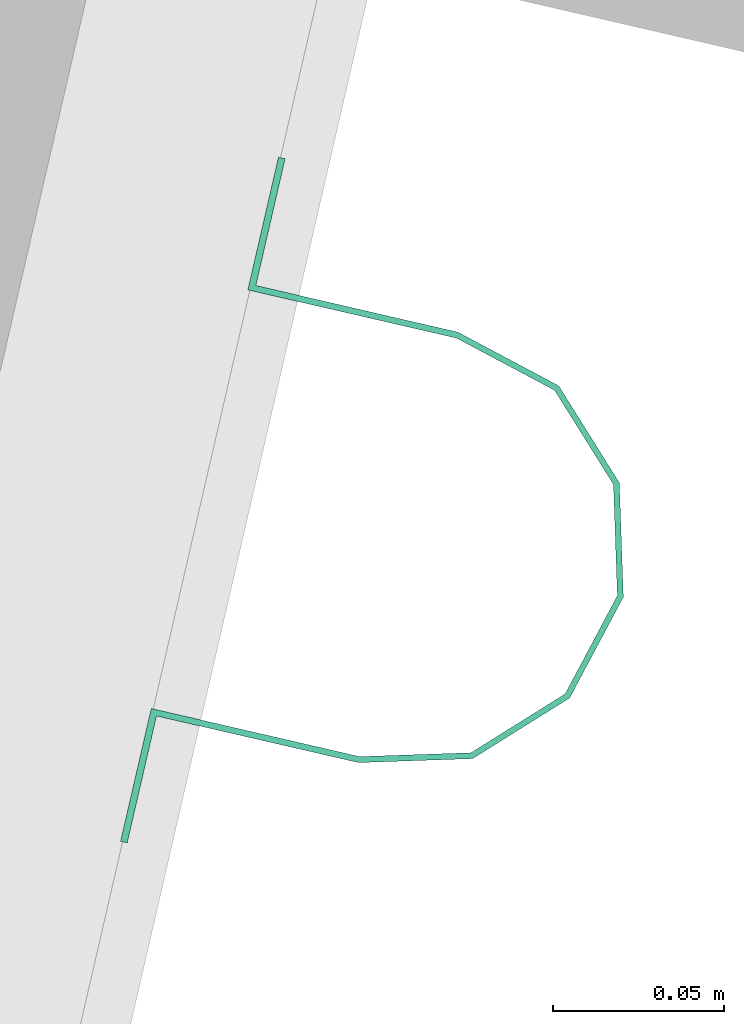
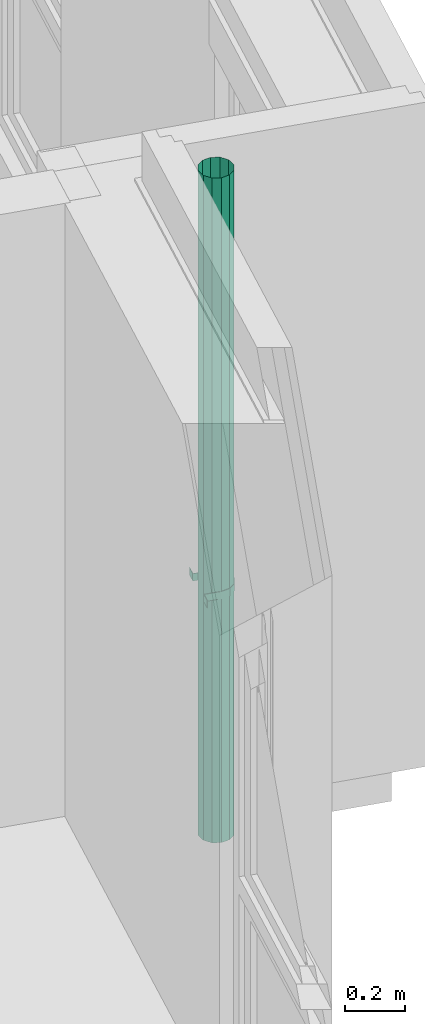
# One storey, part 54 of 62: 1 flow terminal.
"""IFC2X3 building model written with IfcOpenShell, lengths in metres."""

from ifc_helpers import new_model, entity, si_unit, converted_unit, derived_unit, money_unit, direction, frame, origin_with_axes, place, context, subcontext, project, spatial, open_shell, faceted_brep, surface_model, type_object, element, save


model = new_model("IFC2X3")

# Units and contexts
model_context = context("Model", 3, precision=1e-05, world=origin_with_axes(), true_north=direction((0.0, 1.0)))
body_context = subcontext(model_context, "Body", "Model", "MODEL_VIEW")
ifc_project = project(units=[si_unit("LENGTHUNIT", "METRE"), si_unit("AREAUNIT", "SQUARE_METRE"), si_unit("VOLUMEUNIT", "CUBIC_METRE"), converted_unit("PLANEANGLEUNIT", "DEGREE", entity("IfcPlaneAngleMeasure", 0.0174532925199), si_unit("PLANEANGLEUNIT", "RADIAN"), dimensions=[0, 0, 0, 0, 0, 0, 0]), si_unit("SOLIDANGLEUNIT", "STERADIAN"), money_unit("EUR"), converted_unit("TIMEUNIT", "Year", entity("IfcTimeMeasure", 31556926.0), si_unit("TIMEUNIT", "SECOND"), dimensions=[0, 0, 1, 0, 0, 0, 0]), si_unit("MASSUNIT", "GRAM", prefix="KILO"), si_unit("THERMODYNAMICTEMPERATUREUNIT", "DEGREE_CELSIUS"), si_unit("LUMINOUSINTENSITYUNIT", "LUMEN"), si_unit("ENERGYUNIT", "JOULE", prefix="MEGA"), derived_unit("THERMALCONDUCTANCEUNIT", [(si_unit("POWERUNIT", "WATT"), 1), (si_unit("LENGTHUNIT", "METRE"), -1), (si_unit("THERMODYNAMICTEMPERATUREUNIT", "KELVIN"), -1)]), derived_unit("SPECIFICHEATCAPACITYUNIT", [(si_unit("ENERGYUNIT", "JOULE"), 1), (si_unit("MASSUNIT", "GRAM", prefix="KILO"), -1), (si_unit("THERMODYNAMICTEMPERATUREUNIT", "KELVIN"), -1)]), derived_unit("MASSDENSITYUNIT", [(si_unit("MASSUNIT", "GRAM", prefix="KILO"), 1), (si_unit("VOLUMEUNIT", "CUBIC_METRE"), -1)])], contexts=[model_context])

# Site, building, storey
site_placement = place(None, origin_with_axes())
site = spatial("IfcSite", under=ifc_project, at=site_placement, Name="Site", CompositionType="ELEMENT")
building_placement = place(site_placement, origin_with_axes())
building = spatial("IfcBuilding", under=site, at=building_placement, Name="Bâtiment", CompositionType="ELEMENT")
storey_placement = place(building_placement, frame((0.0, 0.0, 8.16), z_axis=(0.0, 0.0, 1.0), x_axis=(1.0, 0.0, 0.0)))
storey = spatial("IfcBuildingStorey", under=building, at=storey_placement, Name="R+3", CompositionType="ELEMENT", Elevation=8.16)

# Flow terminal
waste_terminal_type = type_object("IfcWasteTerminalType", Name="Tuyau descente 23", PredefinedType="GULLYTRAP")
flow_terminal_placement = place(storey_placement, frame((-1.0616550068, 6.38413618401, 0.0), z_axis=(0.0, 0.0, 1.0), x_axis=(0.224876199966, 0.974387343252, 0.0)))
element("IfcFlowTerminal", 1, at=flow_terminal_placement, inside=storey, type_object=waste_terminal_type, Name="MOB-006", context=body_context, shape_type="SurfaceModel", body=[
    surface_model("IfcShellBasedSurfaceModel", [(0.0625, 0.0, 2.7222918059), (0.0541265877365, -0.03125, 2.7222918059), (0.0541265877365, -0.03125, 0.0), (0.0625, 0.0, 0.0), (0.03125, -0.0541265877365, 2.7222918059), (0.03125, -0.0541265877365, 0.0), (0.0541265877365, 0.03125, 2.7222918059), (0.0541265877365, 0.03125, 0.0), (0.0, -0.0625, 2.7222918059), (0.0, -0.0625, 0.0), (0.03125, 0.0541265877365, 2.7222918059), (0.03125, 0.0541265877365, 0.0), (-0.03125, -0.0541265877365, 2.7222918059), (-0.03125, -0.0541265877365, 0.0), (0.0, 0.0625, 2.7222918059), (0.0, 0.0625, 0.0), (-0.0541265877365, -0.03125, 2.7222918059), (-0.0541265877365, -0.03125, 0.0), (-0.03125, 0.0541265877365, 2.7222918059), (-0.03125, 0.0541265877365, 0.0), (-0.0625, 0.0, 2.7222918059), (-0.0625, 0.0, 0.0), (-0.0541265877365, 0.03125, 2.7222918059), (-0.0541265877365, 0.03125, 0.0)], [open_shell([[[0, 1, 2, 3]], [[1, 4, 5, 2]], [[6, 0, 3, 7]], [[4, 8, 9, 5]], [[10, 6, 7, 11]], [[8, 12, 13, 9]], [[14, 10, 11, 15]], [[12, 16, 17, 13]], [[18, 14, 15, 19]], [[16, 20, 21, 17]], [[22, 18, 19, 23]], [[20, 22, 23, 21]]])]),
    faceted_brep([(-0.1025, 0.0604, 1.0), (-0.0645, 0.0604, 1.0), (-0.0645, 0.0604, 1.03), (-0.1025, 0.0604, 1.03), (-0.1025, 0.0624, 1.0), (-0.0627, 0.0624, 1.0), (-0.0627, -0.0001, 1.0), (-0.0542997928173, -0.03145, 1.0), (-0.03135, -0.0543997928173, 1.0), (0.0, -0.0628, 1.0), (0.03135, -0.0543997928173, 1.0), (0.0542997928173, -0.03145, 1.0), (0.0627, -0.0001, 1.0), (0.0627, 0.0624, 1.0), (0.1025, 0.0624, 1.0), (0.1025, 0.0604, 1.0), (0.0645, 0.0604, 1.0), (0.0645, -0.0001, 1.0), (0.0558586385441, -0.03235, 1.0), (0.03225, -0.0559586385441, 1.0), (0.0, -0.0646, 1.0), (-0.03225, -0.0559586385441, 1.0), (-0.0558586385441, -0.03235, 1.0), (-0.0645, -0.0001, 1.0), (-0.0645, -0.0001, 1.03), (-0.0558586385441, -0.03235, 1.03), (-0.03225, -0.0559586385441, 1.03), (0.0, -0.0646, 1.03), (0.03225, -0.0559586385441, 1.03), (0.0558586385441, -0.03235, 1.03), (0.0645, -0.0001, 1.03), (0.0645, 0.0604, 1.03), (0.1025, 0.0604, 1.03), (0.1025, 0.0624, 1.03), (0.0627, 0.0624, 1.03), (0.0627, -0.0001, 1.03), (0.0542997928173, -0.03145, 1.03), (0.03135, -0.0543997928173, 1.03), (0.0, -0.0628, 1.03), (-0.03135, -0.0543997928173, 1.03), (-0.0542997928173, -0.03145, 1.03), (-0.0627, -0.0001, 1.03), (-0.0627, 0.0624, 1.03), (-0.1025, 0.0624, 1.03)], [[[0, 1, 2, 3]], [[0, 4, 5, 6, 7, 8, 9, 10, 11, 12, 13, 14, 15, 16, 17, 18, 19, 20, 21, 22, 23, 1]], [[1, 23, 24, 2]], [[3, 2, 24, 25, 26, 27, 28, 29, 30, 31, 32, 33, 34, 35, 36, 37, 38, 39, 40, 41, 42, 43]], [[4, 0, 3, 43]], [[5, 4, 43, 42]], [[6, 5, 42, 41]], [[7, 6, 41, 40]], [[8, 7, 40, 39]], [[9, 8, 39, 38]], [[10, 9, 38, 37]], [[11, 10, 37, 36]], [[12, 11, 36, 35]], [[13, 12, 35, 34]], [[14, 13, 34, 33]], [[15, 14, 33, 32]], [[16, 15, 32, 31]], [[17, 16, 31, 30]], [[18, 17, 30, 29]], [[19, 18, 29, 28]], [[20, 19, 28, 27]], [[21, 20, 27, 26]], [[22, 21, 26, 25]], [[23, 22, 25, 24]]]),
])

save(model, "model.ifc")
